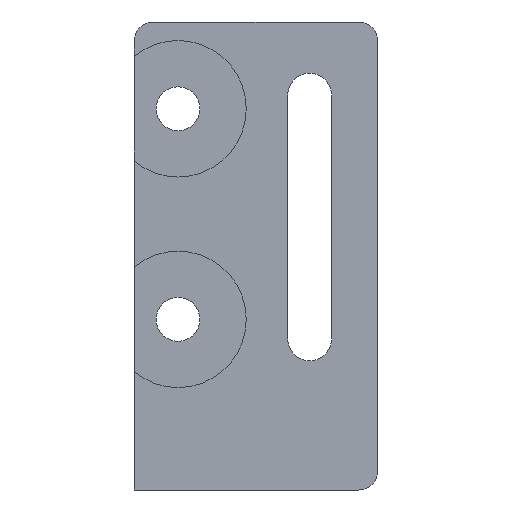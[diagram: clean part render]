
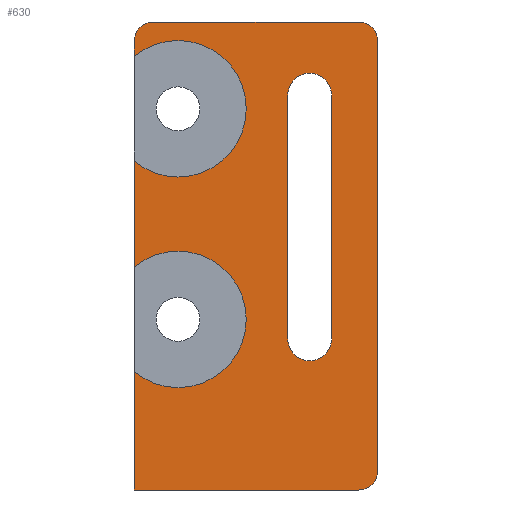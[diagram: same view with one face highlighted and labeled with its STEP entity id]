
A CAD part, front view. The second image highlights one B-rep face of the part: STEP entity #630.
In plain terms, the highlighted planar face has unit normal (0, -1, 0).
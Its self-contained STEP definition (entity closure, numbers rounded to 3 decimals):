
#20=FACE_BOUND('',#98,.T.);
#32=PLANE('',#704);
#58=FACE_OUTER_BOUND('',#97,.T.);
#97=EDGE_LOOP('',(#489,#490,#491,#492,#493,#494,#495,#496,#497,#498,#499));
#98=EDGE_LOOP('',(#500,#501,#502,#503));
#128=LINE('',#950,#187);
#138=LINE('',#980,#197);
#154=LINE('',#1032,#213);
#155=LINE('',#1033,#214);
#156=LINE('',#1035,#215);
#157=LINE('',#1036,#216);
#158=LINE('',#1039,#217);
#159=LINE('',#1043,#218);
#187=VECTOR('',#756,10.);
#197=VECTOR('',#782,10.);
#213=VECTOR('',#836,10.);
#214=VECTOR('',#837,10.);
#215=VECTOR('',#838,10.);
#216=VECTOR('',#839,10.);
#217=VECTOR('',#840,10.);
#218=VECTOR('',#843,10.);
#241=CIRCLE('',#675,2.);
#244=CIRCLE('',#681,2.);
#248=CIRCLE('',#688,2.);
#253=CIRCLE('',#696,7.);
#256=CIRCLE('',#702,7.);
#257=CIRCLE('',#705,2.25);
#258=CIRCLE('',#706,2.25);
#273=VERTEX_POINT('',#934);
#274=VERTEX_POINT('',#936);
#279=VERTEX_POINT('',#948);
#284=VERTEX_POINT('',#961);
#285=VERTEX_POINT('',#963);
#291=VERTEX_POINT('',#979);
#302=VERTEX_POINT('',#1009);
#303=VERTEX_POINT('',#1011);
#307=VERTEX_POINT('',#1024);
#308=VERTEX_POINT('',#1026);
#309=VERTEX_POINT('',#1034);
#310=VERTEX_POINT('',#1037);
#311=VERTEX_POINT('',#1038);
#312=VERTEX_POINT('',#1040);
#313=VERTEX_POINT('',#1042);
#333=EDGE_CURVE('',#273,#274,#241,.T.);
#340=EDGE_CURVE('',#279,#273,#128,.T.);
#346=EDGE_CURVE('',#284,#285,#244,.T.);
#354=EDGE_CURVE('',#285,#291,#138,.T.);
#359=EDGE_CURVE('',#291,#279,#248,.T.);
#371=EDGE_CURVE('',#302,#303,#253,.T.);
#378=EDGE_CURVE('',#307,#308,#256,.T.);
#380=EDGE_CURVE('',#307,#284,#154,.T.);
#381=EDGE_CURVE('',#302,#308,#155,.T.);
#382=EDGE_CURVE('',#309,#303,#156,.T.);
#383=EDGE_CURVE('',#274,#309,#157,.T.);
#384=EDGE_CURVE('',#310,#311,#158,.T.);
#385=EDGE_CURVE('',#311,#312,#257,.T.);
#386=EDGE_CURVE('',#312,#313,#159,.T.);
#387=EDGE_CURVE('',#313,#310,#258,.T.);
#489=ORIENTED_EDGE('',*,*,#333,.F.);
#490=ORIENTED_EDGE('',*,*,#340,.F.);
#491=ORIENTED_EDGE('',*,*,#359,.F.);
#492=ORIENTED_EDGE('',*,*,#354,.F.);
#493=ORIENTED_EDGE('',*,*,#346,.F.);
#494=ORIENTED_EDGE('',*,*,#380,.F.);
#495=ORIENTED_EDGE('',*,*,#378,.T.);
#496=ORIENTED_EDGE('',*,*,#381,.F.);
#497=ORIENTED_EDGE('',*,*,#371,.T.);
#498=ORIENTED_EDGE('',*,*,#382,.F.);
#499=ORIENTED_EDGE('',*,*,#383,.F.);
#500=ORIENTED_EDGE('',*,*,#384,.T.);
#501=ORIENTED_EDGE('',*,*,#385,.T.);
#502=ORIENTED_EDGE('',*,*,#386,.T.);
#503=ORIENTED_EDGE('',*,*,#387,.T.);
#630=ADVANCED_FACE('',(#58,#20),#32,.F.);
#675=AXIS2_PLACEMENT_3D('',#937,#745,#746);
#681=AXIS2_PLACEMENT_3D('',#964,#767,#768);
#688=AXIS2_PLACEMENT_3D('',#988,#790,#791);
#696=AXIS2_PLACEMENT_3D('',#1013,#813,#814);
#702=AXIS2_PLACEMENT_3D('',#1028,#829,#830);
#704=AXIS2_PLACEMENT_3D('',#1031,#834,#835);
#705=AXIS2_PLACEMENT_3D('',#1041,#841,#842);
#706=AXIS2_PLACEMENT_3D('',#1044,#844,#845);
#745=DIRECTION('center_axis',(0.,1.,0.));
#746=DIRECTION('ref_axis',(0.707,0.,-0.707));
#756=DIRECTION('',(0.,0.,-1.));
#767=DIRECTION('center_axis',(0.,1.,0.));
#768=DIRECTION('ref_axis',(-0.707,0.,0.707));
#782=DIRECTION('',(1.,0.,0.));
#790=DIRECTION('center_axis',(0.,1.,0.));
#791=DIRECTION('ref_axis',(0.707,0.,0.707));
#813=DIRECTION('center_axis',(0.,1.,0.));
#814=DIRECTION('ref_axis',(1.,0.,0.));
#829=DIRECTION('center_axis',(0.,1.,0.));
#830=DIRECTION('ref_axis',(1.,0.,0.));
#834=DIRECTION('center_axis',(0.,1.,0.));
#835=DIRECTION('ref_axis',(0.,0.,1.));
#836=DIRECTION('',(0.,0.,1.));
#837=DIRECTION('',(0.,0.,1.));
#838=DIRECTION('',(0.,0.,1.));
#839=DIRECTION('',(-1.,0.,0.));
#840=DIRECTION('',(0.,0.,1.));
#841=DIRECTION('center_axis',(0.,1.,0.));
#842=DIRECTION('ref_axis',(-1.,0.,0.));
#843=DIRECTION('',(0.,0.,-1.));
#844=DIRECTION('center_axis',(0.,1.,0.));
#845=DIRECTION('ref_axis',(1.,0.,0.));
#934=CARTESIAN_POINT('',(12.5,0.,-22.));
#936=CARTESIAN_POINT('',(10.5,0.,-24.));
#937=CARTESIAN_POINT('Origin',(10.5,0.,-22.));
#948=CARTESIAN_POINT('',(12.5,0.,22.));
#950=CARTESIAN_POINT('',(12.5,0.,24.));
#961=CARTESIAN_POINT('',(-12.5,0.,22.));
#963=CARTESIAN_POINT('',(-10.5,0.,24.));
#964=CARTESIAN_POINT('Origin',(-10.5,0.,22.));
#979=CARTESIAN_POINT('',(10.5,0.,24.));
#980=CARTESIAN_POINT('',(-12.5,0.,24.));
#988=CARTESIAN_POINT('Origin',(10.5,0.,22.));
#1009=CARTESIAN_POINT('',(-12.5,0.,-1.138));
#1011=CARTESIAN_POINT('',(-12.5,0.,-11.862));
#1013=CARTESIAN_POINT('Origin',(-8.,0.,-6.5));
#1024=CARTESIAN_POINT('',(-12.5,0.,20.462));
#1026=CARTESIAN_POINT('',(-12.5,0.,9.738));
#1028=CARTESIAN_POINT('Origin',(-8.,0.,15.1));
#1031=CARTESIAN_POINT('Origin',(0.,0.,0.));
#1032=CARTESIAN_POINT('',(-12.5,0.,-24.));
#1033=CARTESIAN_POINT('',(-12.5,0.,-24.));
#1034=CARTESIAN_POINT('',(-12.5,0.,-24.));
#1035=CARTESIAN_POINT('',(-12.5,0.,-24.));
#1036=CARTESIAN_POINT('',(12.5,0.,-24.));
#1037=CARTESIAN_POINT('',(3.25,0.,-8.5));
#1038=CARTESIAN_POINT('',(3.25,0.,16.5));
#1039=CARTESIAN_POINT('',(3.25,0.,8.25));
#1040=CARTESIAN_POINT('',(7.75,0.,16.5));
#1041=CARTESIAN_POINT('Origin',(5.5,0.,16.5));
#1042=CARTESIAN_POINT('',(7.75,0.,-8.5));
#1043=CARTESIAN_POINT('',(7.75,0.,-4.25));
#1044=CARTESIAN_POINT('Origin',(5.5,0.,-8.5));
